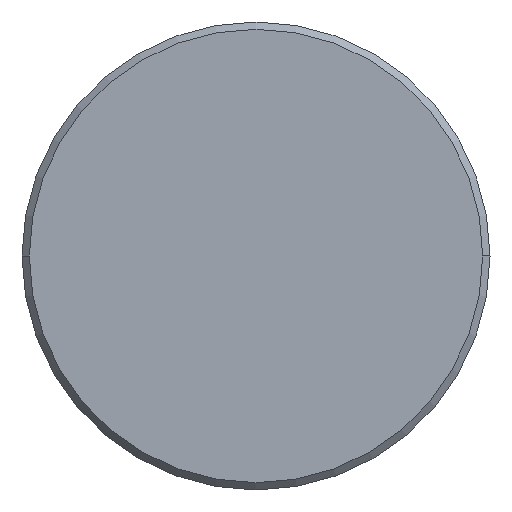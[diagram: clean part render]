
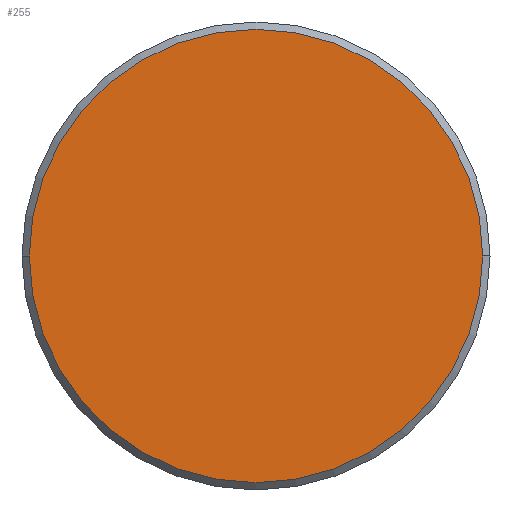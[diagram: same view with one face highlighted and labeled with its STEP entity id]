
A CAD part, left-side view. The second image highlights one B-rep face of the part: STEP entity #255.
In plain terms, the highlighted planar face has unit normal (-1, 0, 0).
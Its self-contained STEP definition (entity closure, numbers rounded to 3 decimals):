
#2 = VERTEX_POINT ( 'NONE', #260 ) ;
#3 = ORIENTED_EDGE ( 'NONE', *, *, #187, .F. ) ;
#10 = AXIS2_PLACEMENT_3D ( 'NONE', #327, #334, #35 ) ;
#23 = CIRCLE ( 'NONE', #65, 15.5 ) ;
#35 = DIRECTION ( 'NONE',  ( 0., 1., 0. ) ) ;
#62 = ORIENTED_EDGE ( 'NONE', *, *, #172, .F. ) ;
#65 = AXIS2_PLACEMENT_3D ( 'NONE', #109, #271, #72 ) ;
#72 = DIRECTION ( 'NONE',  ( 0., 1., 0. ) ) ;
#78 = VERTEX_POINT ( 'NONE', #346 ) ;
#109 = CARTESIAN_POINT ( 'NONE',  ( -62., 0., 0. ) ) ;
#113 = DIRECTION ( 'NONE',  ( 0., -1., 0. ) ) ;
#172 = EDGE_CURVE ( 'NONE', #78, #2, #359, .T. ) ;
#187 = EDGE_CURVE ( 'NONE', #2, #78, #23, .T. ) ;
#215 = AXIS2_PLACEMENT_3D ( 'NONE', #227, #274, #113 ) ;
#227 = CARTESIAN_POINT ( 'NONE',  ( -62., 0., 0. ) ) ;
#233 = EDGE_LOOP ( 'NONE', ( #62, #3 ) ) ;
#252 = PLANE ( 'NONE',  #215 ) ;
#255 = ADVANCED_FACE ( 'NONE', ( #306 ), #252, .T. ) ;
#260 = CARTESIAN_POINT ( 'NONE',  ( -62., -15.5, 0. ) ) ;
#271 = DIRECTION ( 'NONE',  ( 1., 0., 0. ) ) ;
#274 = DIRECTION ( 'NONE',  ( -1., 0., 0. ) ) ;
#306 = FACE_OUTER_BOUND ( 'NONE', #233, .T. ) ;
#327 = CARTESIAN_POINT ( 'NONE',  ( -62., 0., 0. ) ) ;
#334 = DIRECTION ( 'NONE',  ( 1., 0., 0. ) ) ;
#346 = CARTESIAN_POINT ( 'NONE',  ( -62., 15.5, 0. ) ) ;
#359 = CIRCLE ( 'NONE', #10, 15.5 ) ;
